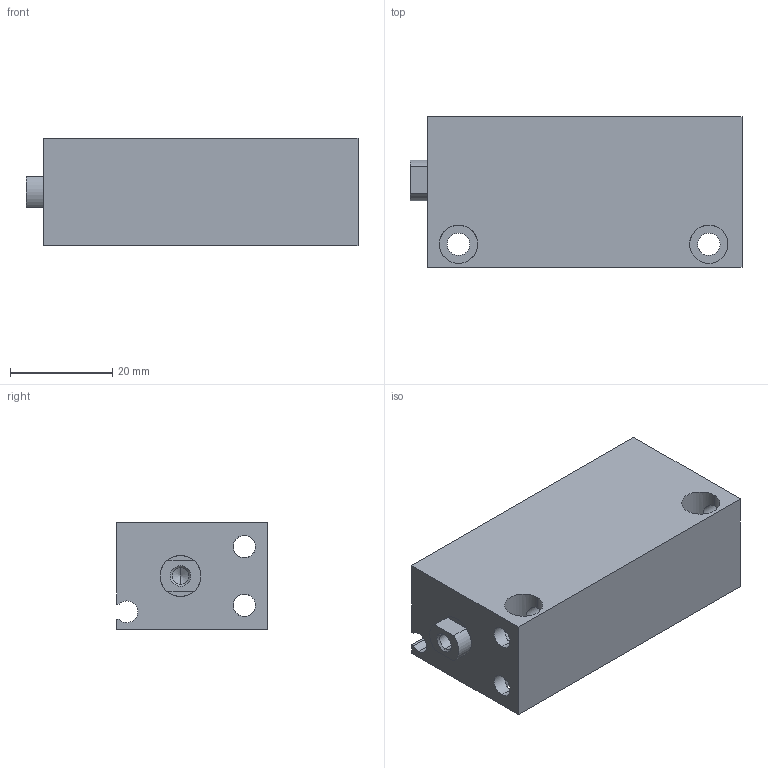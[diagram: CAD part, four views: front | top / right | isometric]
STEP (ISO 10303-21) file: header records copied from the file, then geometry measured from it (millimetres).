
FILE_DESCRIPTION (( 'STEP AP203' ), '1' );
FILE_NAME ('CLJB16-45.STEP', '2020-07-30T19:24:49', ( '' ), ( '' ), 'SwSTEP 2.0', 'SolidWorks 2019', '' );
FILE_SCHEMA (( 'CONFIG_CONTROL_DESIGN' ));
Length unit declared in the file: millimetre
Products named in the file (1): CLJB16-45
Bounding box: 65 x 29.5 x 21 mm (x, y, z)
Volume: 27589.2 mm3; surface area: 14710.2 mm2
Topology: 2 solids, 2 shells, 75 faces, 188 edges, 113 vertices
Faces by surface type: cylinder 41, plane 22, cone 12
Entity records: 3119 total; most frequent: CARTESIAN_POINT 1223, DIRECTION 394, ORIENTED_EDGE 364, EDGE_CURVE 182, AXIS2_PLACEMENT_3D 152, VERTEX_POINT 113, EDGE_LOOP 93, VECTOR 90
